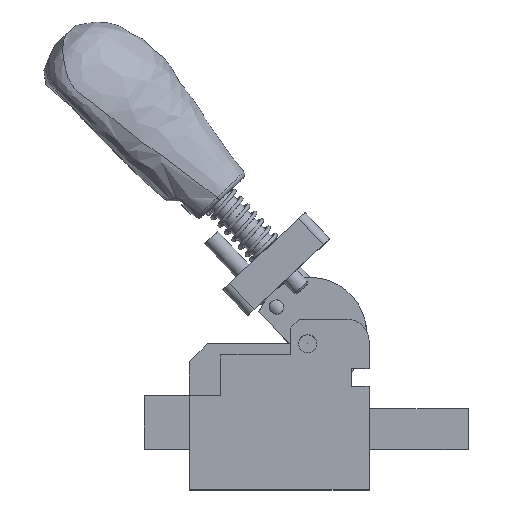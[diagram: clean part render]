
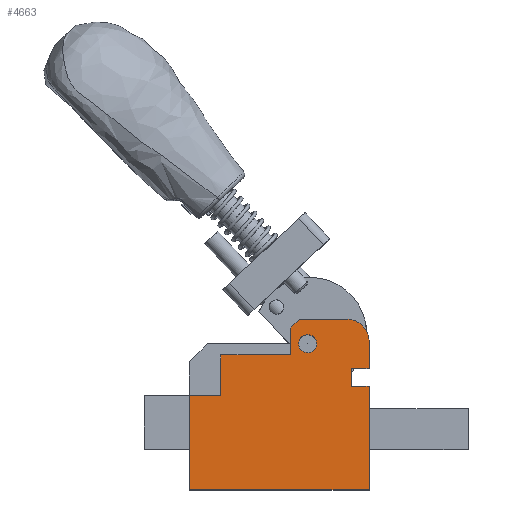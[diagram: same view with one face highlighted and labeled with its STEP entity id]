
A CAD part, top view. The second image highlights one B-rep face of the part: STEP entity #4663.
In plain terms, the highlighted planar face has unit normal (0, 0, 1).
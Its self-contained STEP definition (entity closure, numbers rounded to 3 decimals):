
#259=FACE_BOUND('',#937,.T.);
#389=PLANE('',#5297);
#635=FACE_OUTER_BOUND('',#936,.T.);
#936=EDGE_LOOP('',(#4310,#4311,#4312,#4313,#4314,#4315,#4316,#4317,#4318,
#4319,#4320,#4321,#4322,#4323));
#937=EDGE_LOOP('',(#4324));
#1241=LINE('',#18825,#1628);
#1251=LINE('',#18844,#1638);
#1254=LINE('',#18850,#1641);
#1277=LINE('',#18905,#1664);
#1285=LINE('',#18939,#1672);
#1288=LINE('',#18944,#1675);
#1303=LINE('',#19096,#1690);
#1306=LINE('',#19101,#1693);
#1307=LINE('',#19104,#1694);
#1309=LINE('',#19107,#1696);
#1319=LINE('',#19127,#1706);
#1322=LINE('',#19138,#1709);
#1326=LINE('',#19144,#1713);
#1628=VECTOR('',#6333,10.);
#1638=VECTOR('',#6349,10.);
#1641=VECTOR('',#6354,10.);
#1664=VECTOR('',#6393,10.);
#1672=VECTOR('',#6427,10.);
#1675=VECTOR('',#6432,10.);
#1690=VECTOR('',#6505,10.);
#1693=VECTOR('',#6510,10.);
#1694=VECTOR('',#6513,10.);
#1696=VECTOR('',#6517,10.);
#1706=VECTOR('',#6539,10.);
#1709=VECTOR('',#6552,10.);
#1713=VECTOR('',#6558,10.);
#1912=CIRCLE('',#5280,5.);
#1913=CIRCLE('',#5292,2.);
#2278=VERTEX_POINT('',#18822);
#2279=VERTEX_POINT('',#18824);
#2285=VERTEX_POINT('',#18842);
#2287=VERTEX_POINT('',#18848);
#2311=VERTEX_POINT('',#18904);
#2323=VERTEX_POINT('',#18937);
#2324=VERTEX_POINT('',#18938);
#2325=VERTEX_POINT('',#18943);
#2347=VERTEX_POINT('',#19089);
#2348=VERTEX_POINT('',#19093);
#2349=VERTEX_POINT('',#19095);
#2350=VERTEX_POINT('',#19099);
#2351=VERTEX_POINT('',#19103);
#2356=VERTEX_POINT('',#19129);
#2358=VERTEX_POINT('',#19137);
#2900=EDGE_CURVE('',#2279,#2278,#1241,.T.);
#2910=EDGE_CURVE('',#2278,#2285,#1251,.T.);
#2913=EDGE_CURVE('',#2285,#2287,#1254,.T.);
#2940=EDGE_CURVE('',#2279,#2311,#1277,.T.);
#2956=EDGE_CURVE('',#2323,#2324,#1285,.T.);
#2959=EDGE_CURVE('',#2324,#2325,#1288,.T.);
#2991=EDGE_CURVE('',#2325,#2347,#1912,.T.);
#2994=EDGE_CURVE('',#2349,#2348,#1303,.T.);
#2997=EDGE_CURVE('',#2348,#2350,#1306,.T.);
#2998=EDGE_CURVE('',#2351,#2349,#1307,.T.);
#3000=EDGE_CURVE('',#2323,#2351,#1309,.T.);
#3010=EDGE_CURVE('',#2347,#2287,#1319,.T.);
#3012=EDGE_CURVE('',#2356,#2356,#1913,.T.);
#3015=EDGE_CURVE('',#2311,#2358,#1322,.T.);
#3019=EDGE_CURVE('',#2358,#2350,#1326,.T.);
#4310=ORIENTED_EDGE('',*,*,#2913,.T.);
#4311=ORIENTED_EDGE('',*,*,#3010,.F.);
#4312=ORIENTED_EDGE('',*,*,#2991,.F.);
#4313=ORIENTED_EDGE('',*,*,#2959,.F.);
#4314=ORIENTED_EDGE('',*,*,#2956,.F.);
#4315=ORIENTED_EDGE('',*,*,#3000,.T.);
#4316=ORIENTED_EDGE('',*,*,#2998,.T.);
#4317=ORIENTED_EDGE('',*,*,#2994,.T.);
#4318=ORIENTED_EDGE('',*,*,#2997,.T.);
#4319=ORIENTED_EDGE('',*,*,#3019,.F.);
#4320=ORIENTED_EDGE('',*,*,#3015,.F.);
#4321=ORIENTED_EDGE('',*,*,#2940,.F.);
#4322=ORIENTED_EDGE('',*,*,#2900,.T.);
#4323=ORIENTED_EDGE('',*,*,#2910,.T.);
#4324=ORIENTED_EDGE('',*,*,#3012,.T.);
#4663=ADVANCED_FACE('',(#635,#259),#389,.T.);
#5280=AXIS2_PLACEMENT_3D('',#19090,#6499,#6500);
#5292=AXIS2_PLACEMENT_3D('',#19131,#6543,#6544);
#5297=AXIS2_PLACEMENT_3D('',#19145,#6559,#6560);
#6333=DIRECTION('',(-1.,0.,0.));
#6349=DIRECTION('',(0.,1.,0.));
#6354=DIRECTION('',(1.,0.,0.));
#6393=DIRECTION('',(0.,-1.,0.));
#6427=DIRECTION('',(0.707,0.707,0.));
#6432=DIRECTION('',(1.,0.,0.));
#6499=DIRECTION('center_axis',(0.,0.,-1.));
#6500=DIRECTION('ref_axis',(0.707,0.707,0.));
#6505=DIRECTION('',(0.,-1.,0.));
#6510=DIRECTION('',(-1.,0.,0.));
#6513=DIRECTION('',(-1.,0.,0.));
#6517=DIRECTION('',(0.,-1.,0.));
#6539=DIRECTION('',(0.,-1.,0.));
#6543=DIRECTION('center_axis',(0.,0.,-1.));
#6544=DIRECTION('ref_axis',(-1.,0.,0.));
#6552=DIRECTION('',(-1.,0.,0.));
#6558=DIRECTION('',(0.,1.,0.));
#6559=DIRECTION('center_axis',(0.,0.,1.));
#6560=DIRECTION('ref_axis',(1.,0.,0.));
#18822=CARTESIAN_POINT('',(56.09,37.487,24.));
#18824=CARTESIAN_POINT('',(60.09,37.487,24.));
#18825=CARTESIAN_POINT('',(48.666,37.487,24.));
#18842=CARTESIAN_POINT('',(56.09,41.487,24.));
#18844=CARTESIAN_POINT('',(56.09,36.958,24.));
#18848=CARTESIAN_POINT('',(60.09,41.487,24.));
#18850=CARTESIAN_POINT('',(50.666,41.487,24.));
#18904=CARTESIAN_POINT('',(60.09,14.487,24.));
#18905=CARTESIAN_POINT('',(60.09,52.487,24.));
#18937=CARTESIAN_POINT('',(42.59,50.487,24.));
#18938=CARTESIAN_POINT('',(44.59,52.487,24.));
#18939=CARTESIAN_POINT('',(38.238,46.136,24.));
#18943=CARTESIAN_POINT('',(55.09,52.487,24.));
#18944=CARTESIAN_POINT('',(30.998,52.487,24.));
#19089=CARTESIAN_POINT('',(60.09,47.487,24.));
#19090=CARTESIAN_POINT('Origin',(55.09,47.487,24.));
#19093=CARTESIAN_POINT('',(27.09,35.487,24.));
#19095=CARTESIAN_POINT('',(27.09,44.487,24.));
#19096=CARTESIAN_POINT('',(27.09,33.958,24.));
#19099=CARTESIAN_POINT('',(20.09,35.487,24.));
#19101=CARTESIAN_POINT('',(30.666,35.487,24.));
#19103=CARTESIAN_POINT('',(42.59,44.487,24.));
#19104=CARTESIAN_POINT('',(34.166,44.487,24.));
#19107=CARTESIAN_POINT('',(42.59,38.458,24.));
#19127=CARTESIAN_POINT('',(60.09,52.487,24.));
#19129=CARTESIAN_POINT('',(48.39,46.987,24.));
#19131=CARTESIAN_POINT('Origin',(46.39,46.987,24.));
#19137=CARTESIAN_POINT('',(20.09,14.487,24.));
#19138=CARTESIAN_POINT('',(60.09,14.487,24.));
#19144=CARTESIAN_POINT('',(20.09,14.487,24.));
#19145=CARTESIAN_POINT('Origin',(41.242,32.43,24.));
